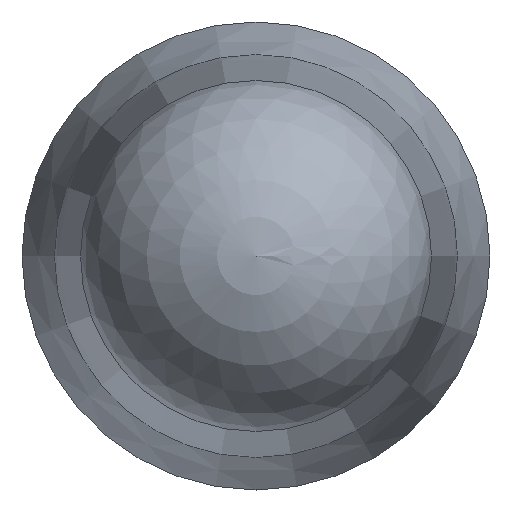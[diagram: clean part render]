
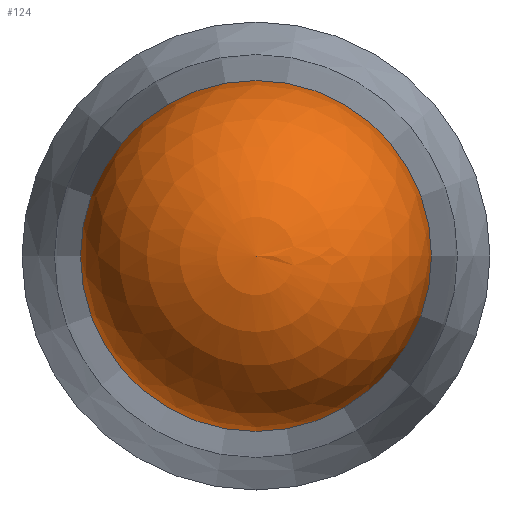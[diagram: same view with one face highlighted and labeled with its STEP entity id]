
A CAD part, left-side view. The second image highlights one B-rep face of the part: STEP entity #124.
In plain terms, the highlighted spherical face has radius 3 mm.
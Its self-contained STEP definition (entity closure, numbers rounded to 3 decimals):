
#95=SPHERICAL_SURFACE('',#202,3.);
#124=ADVANCED_FACE('',(#128),#95,.T.);
#128=FACE_OUTER_BOUND('',#144,.T.);
#144=EDGE_LOOP('',(#160));
#160=ORIENTED_EDGE('',*,*,#176,.T.);
#168=VERTEX_POINT('',#262);
#176=EDGE_CURVE('',#168,#168,#184,.T.);
#184=CIRCLE('',#200,3.);
#200=AXIS2_PLACEMENT_3D('',#261,#233,#234);
#202=AXIS2_PLACEMENT_3D('',#264,#237,#238);
#233=DIRECTION('',(-1.,0.,0.));
#234=DIRECTION('',(0.,-1.,0.));
#237=DIRECTION('',(-1.,0.,0.));
#238=DIRECTION('',(0.,-1.,0.));
#261=CARTESIAN_POINT('',(7896.912,6103.288,0.));
#262=CARTESIAN_POINT('',(7896.912,6100.288,0.));
#264=CARTESIAN_POINT('',(7896.912,6103.288,0.));
